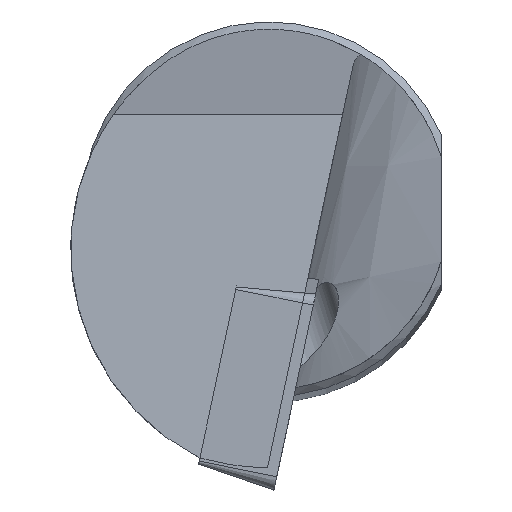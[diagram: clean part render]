
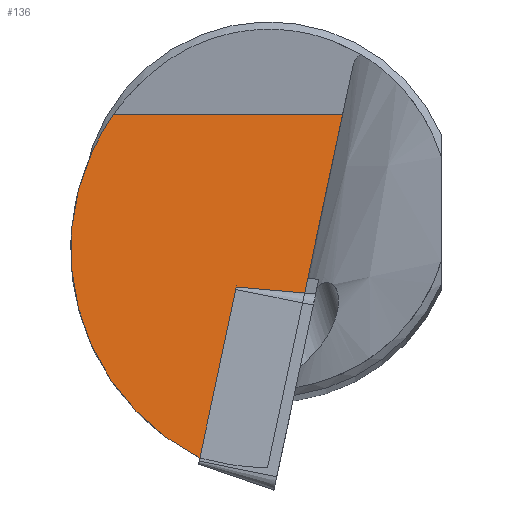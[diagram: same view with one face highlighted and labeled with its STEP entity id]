
A CAD part, top view. The second image highlights one B-rep face of the part: STEP entity #136.
In plain terms, the highlighted planar face has unit normal (0, 0.089, 0.996).
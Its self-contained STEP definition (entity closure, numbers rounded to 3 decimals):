
#69=PLANE('',#504);
#82=LINE('',#718,#108);
#83=LINE('',#720,#109);
#108=VECTOR('',#563,1.);
#109=VECTOR('',#564,1.);
#136=ADVANCED_FACE('',(#173),#69,.F.);
#173=FACE_OUTER_BOUND('',#196,.T.);
#196=EDGE_LOOP('',(#256,#257,#258,#259));
#228=ELLIPSE('',#499,8.262,8.229);
#229=ELLIPSE('',#503,7.501,7.471);
#256=ORIENTED_EDGE('',*,*,#419,.T.);
#257=ORIENTED_EDGE('',*,*,#424,.F.);
#258=ORIENTED_EDGE('',*,*,#425,.T.);
#259=ORIENTED_EDGE('',*,*,#426,.F.);
#376=VERTEX_POINT('',#696);
#377=VERTEX_POINT('',#698);
#380=VERTEX_POINT('',#719);
#381=VERTEX_POINT('',#721);
#419=EDGE_CURVE('',#377,#376,#228,.T.);
#424=EDGE_CURVE('',#380,#376,#82,.T.);
#425=EDGE_CURVE('',#380,#381,#83,.T.);
#426=EDGE_CURVE('',#377,#381,#229,.T.);
#499=AXIS2_PLACEMENT_3D('',#697,#555,#556);
#503=AXIS2_PLACEMENT_3D('',#722,#565,#566);
#504=AXIS2_PLACEMENT_3D('',#723,#567,#568);
#555=DIRECTION('',(0.,0.089,0.996));
#556=DIRECTION('',(0.,-0.996,0.089));
#563=DIRECTION('',(-0.207,-0.974,0.087));
#564=DIRECTION('',(-1.,0.,0.));
#565=DIRECTION('',(0.,-0.089,-0.996));
#566=DIRECTION('',(0.,-0.996,0.089));
#567=DIRECTION('',(0.,-0.089,-0.996));
#568=DIRECTION('',(0.,0.996,-0.089));
#696=CARTESIAN_POINT('',(-0.055,-8.293,-0.574));
#697=CARTESIAN_POINT('',(0.,-0.064,-1.31));
#698=CARTESIAN_POINT('',(-2.219,-7.989,-0.601));
#718=CARTESIAN_POINT('',(0.099,-7.568,-0.638));
#719=CARTESIAN_POINT('',(2.345,3.,-1.584));
#720=CARTESIAN_POINT('',(-8.3,3.,-1.584));
#721=CARTESIAN_POINT('',(-4.984,3.,-1.584));
#722=CARTESIAN_POINT('',(1.121,-1.306,-1.199));
#723=CARTESIAN_POINT('',(-8.3,-10.039,-0.417));
